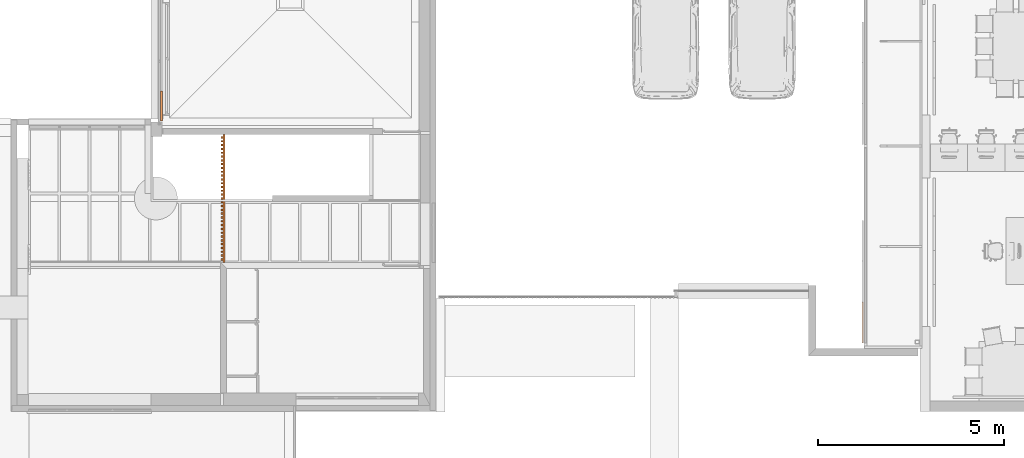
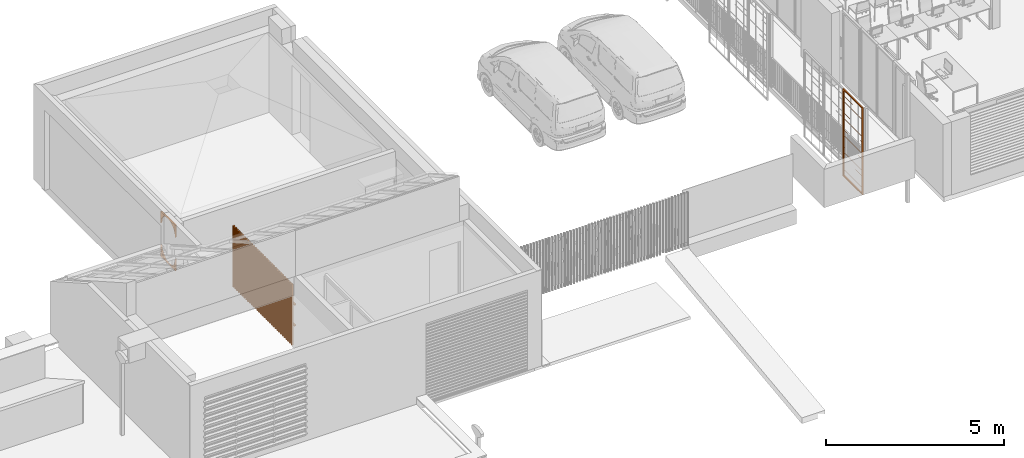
# One storey, part 36 of 51: 3 proxies.
"""IFC2X3 building model written with IfcOpenShell, lengths in metres."""

from ifc_helpers import new_model, entity, si_unit, converted_unit, derived_unit, direction, frame, frame_2d, origin, origin_2d_with_axis, place, context, subcontext, project, spatial, polyline, circle_curve, parameter, trimmed, segment, composite_curve, rectangle, outline, extrude, source, transform, mapped, material, type_object, type_shapes, element, save


model = new_model("IFC2X3")

# Units and contexts
model_context = context("Model", 3, precision=1e-05, world=origin(), true_north=direction((6.123031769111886e-17, 1.0)))
body_context = subcontext(model_context, "Body", "Model", "MODEL_VIEW")
ifc_project = project(units=[si_unit("LENGTHUNIT", "METRE"), si_unit("AREAUNIT", "SQUARE_METRE"), si_unit("VOLUMEUNIT", "CUBIC_METRE"), converted_unit("PLANEANGLEUNIT", "DEGREE", entity("IfcRatioMeasure", 0.017453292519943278), si_unit("PLANEANGLEUNIT", "RADIAN"), dimensions=[0, 0, 0, 0, 0, 0, 0]), si_unit("MASSUNIT", "GRAM", prefix="KILO"), derived_unit("MASSDENSITYUNIT", [(si_unit("MASSUNIT", "GRAM", prefix="KILO"), 1), (si_unit("LENGTHUNIT", "METRE"), -3)]), derived_unit("MOMENTOFINERTIAUNIT", [(si_unit("LENGTHUNIT", "METRE"), 4)]), si_unit("TIMEUNIT", "SECOND"), si_unit("FREQUENCYUNIT", "HERTZ"), si_unit("THERMODYNAMICTEMPERATUREUNIT", "DEGREE_CELSIUS"), derived_unit("THERMALTRANSMITTANCEUNIT", [(si_unit("MASSUNIT", "GRAM", prefix="KILO"), 1), (si_unit("THERMODYNAMICTEMPERATUREUNIT", "KELVIN"), -1), (si_unit("TIMEUNIT", "SECOND"), -3)]), derived_unit("THERMALCONDUCTANCEUNIT", [(si_unit("MASSUNIT", "GRAM", prefix="KILO"), 1), (si_unit("LENGTHUNIT", "METRE"), 1), (si_unit("THERMODYNAMICTEMPERATUREUNIT", "KELVIN"), -1), (si_unit("TIMEUNIT", "SECOND"), -3)]), derived_unit("VOLUMETRICFLOWRATEUNIT", [(si_unit("LENGTHUNIT", "METRE"), 3), (si_unit("TIMEUNIT", "SECOND"), -1)]), derived_unit("MASSFLOWRATEUNIT", [(si_unit("MASSUNIT", "GRAM", prefix="KILO"), 1), (si_unit("TIMEUNIT", "SECOND"), -1)]), derived_unit("ROTATIONALFREQUENCYUNIT", [(si_unit("TIMEUNIT", "SECOND"), -1)]), si_unit("ELECTRICCURRENTUNIT", "AMPERE"), si_unit("ELECTRICVOLTAGEUNIT", "VOLT"), si_unit("POWERUNIT", "WATT"), si_unit("FORCEUNIT", "NEWTON", prefix="KILO"), si_unit("ILLUMINANCEUNIT", "LUX"), si_unit("LUMINOUSFLUXUNIT", "LUMEN"), si_unit("LUMINOUSINTENSITYUNIT", "CANDELA"), derived_unit("USERDEFINED", [(si_unit("MASSUNIT", "GRAM", prefix="KILO"), -1), (si_unit("LENGTHUNIT", "METRE"), -2), (si_unit("TIMEUNIT", "SECOND"), 3), (si_unit("LUMINOUSFLUXUNIT", "LUMEN"), 1)]), derived_unit("USERDEFINED", [(si_unit("MASSUNIT", "GRAM", prefix="KILO"), 1), (si_unit("LENGTHUNIT", "METRE"), 3), (si_unit("TIMEUNIT", "SECOND"), -3), (si_unit("ELECTRICCURRENTUNIT", "AMPERE"), -2)]), derived_unit("USERDEFINED", [(si_unit("LENGTHUNIT", "METRE"), 2), (si_unit("TIMEUNIT", "SECOND"), -2)]), derived_unit("SOUNDPOWERUNIT", [(si_unit("MASSUNIT", "GRAM", prefix="KILO"), 1), (si_unit("LENGTHUNIT", "METRE"), 2), (si_unit("TIMEUNIT", "SECOND"), -3)]), derived_unit("SOUNDPRESSUREUNIT", [(si_unit("MASSUNIT", "GRAM", prefix="KILO"), 1), (si_unit("LENGTHUNIT", "METRE"), -1), (si_unit("TIMEUNIT", "SECOND"), -2)]), derived_unit("LINEARVELOCITYUNIT", [(si_unit("LENGTHUNIT", "METRE"), 1), (si_unit("TIMEUNIT", "SECOND"), -1)]), si_unit("PRESSUREUNIT", "PASCAL"), derived_unit("USERDEFINED", [(si_unit("LENGTHUNIT", "METRE"), -2), (si_unit("MASSUNIT", "GRAM", prefix="KILO"), 1), (si_unit("TIMEUNIT", "SECOND"), -2)]), derived_unit("LINEARFORCEUNIT", [(si_unit("MASSUNIT", "GRAM", prefix="KILO"), 1), (si_unit("LENGTHUNIT", "METRE"), 1), (si_unit("TIMEUNIT", "SECOND"), -2), (si_unit("LENGTHUNIT", "METRE"), -1)]), derived_unit("PLANARFORCEUNIT", [(si_unit("MASSUNIT", "GRAM", prefix="KILO"), 1), (si_unit("LENGTHUNIT", "METRE"), 1), (si_unit("TIMEUNIT", "SECOND"), -2), (si_unit("LENGTHUNIT", "METRE"), -2)]), derived_unit("SPECIFICHEATCAPACITYUNIT", [(si_unit("LENGTHUNIT", "METRE"), 2), (si_unit("TIMEUNIT", "SECOND"), -2), (si_unit("THERMODYNAMICTEMPERATUREUNIT", "KELVIN"), -1)]), derived_unit("VAPORPERMEABILITYUNIT", [(si_unit("TIMEUNIT", "SECOND"), 1), (si_unit("LENGTHUNIT", "METRE"), -1)]), derived_unit("DYNAMICVISCOSITYUNIT", [(si_unit("MASSUNIT", "GRAM", prefix="KILO"), 1), (si_unit("LENGTHUNIT", "METRE"), -1), (si_unit("TIMEUNIT", "SECOND"), -1)]), derived_unit("THERMALEXPANSIONCOEFFICIENTUNIT", [(si_unit("THERMODYNAMICTEMPERATUREUNIT", "KELVIN"), -1)])], contexts=[model_context])

# Site, building, storey
site_placement = place(None, origin())
site = spatial("IfcSite", under=ifc_project, at=site_placement, Name="Default", CompositionType="ELEMENT")
building_placement = place(site_placement, origin())
building = spatial("IfcBuilding", under=site, at=building_placement, CompositionType="ELEMENT")
storey_placement = place(building_placement, frame((0.0, 0.0, 3.06)))
storey = spatial("IfcBuildingStorey", under=building, at=storey_placement, Name="ÉTAGE", CompositionType="ELEMENT", Elevation=3.06)

# Proxies
ifc_material_1 = material(Name="Bois - Chêne clair")
building_element_proxy_type_1 = type_object("IfcBuildingElementProxyType", Name="Poutre-001 248392:Poutre-001 248392", PredefinedType="NOTDEFINED", material=ifc_material_1)
shared_shape_1 = source(origin(), body_context, "Body", "SweptSolid", [
    extrude(outline(composite_curve([segment(polyline([(-0.1366666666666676, -0.13666666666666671), (0.27333333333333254, -0.13666666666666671)]), True, "CONTINUOUS"), segment(trimmed(circle_curve(frame_2d((0.27333333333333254, 0.27333333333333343), x_axis=(0.0, -1.0)), 0.4099999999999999), [parameter(269.9999999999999)], [parameter(0.0)], True, "PARAMETER"), False, "CONTINUOUS"), segment(polyline([(-0.1366666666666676, 0.27333333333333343), (-0.1366666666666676, -0.13666666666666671)]), True, "CONTINUOUS")], self_intersect=False)), frame((120.94075226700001, 15.543876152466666, 5.583333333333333), z_axis=(1.0, 0.0, 0.0), x_axis=(0.0, 0.0, -1.0)), (0.0, 0.0, 1.0), 0.050000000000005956),
    extrude(outline(composite_curve([segment(polyline([(-0.27333333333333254, -0.13666666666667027), (0.1366666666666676, -0.13666666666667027)]), True, "CONTINUOUS"), segment(polyline([(0.1366666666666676, -0.13666666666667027), (0.1366666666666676, 0.2733333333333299)]), True, "CONTINUOUS"), segment(trimmed(circle_curve(frame_2d((-0.27333333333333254, 0.2733333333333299), x_axis=(1.0, 0.0)), 0.4099999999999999), [parameter(269.9999999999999)], [parameter(0.0)], True, "PARAMETER"), False, "CONTINUOUS")], self_intersect=False)), frame((120.94075226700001, 16.09054281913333, 5.583333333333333), z_axis=(1.0, 0.0, 0.0), x_axis=(0.0, 0.0, 1.0)), (0.0, 0.0, 1.0), 0.050000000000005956),
    extrude(outline(composite_curve([segment(polyline([(-0.27333333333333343, -0.13666666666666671), (0.1366666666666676, -0.13666666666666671)]), True, "CONTINUOUS"), segment(polyline([(0.1366666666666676, -0.13666666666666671), (0.1366666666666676, 0.27333333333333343)]), True, "CONTINUOUS"), segment(trimmed(circle_curve(frame_2d((-0.27333333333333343, 0.27333333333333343), x_axis=(1.0, 0.0)), 0.4099999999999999), [parameter(269.9999999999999)], [parameter(0.0)], True, "PARAMETER"), False, "CONTINUOUS")], self_intersect=False)), frame((120.94075226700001, 15.543876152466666, 4.296666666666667), z_axis=(1.0, 0.0, 0.0), x_axis=(0.0, 0.0, -1.0)), (0.0, 0.0, 1.0), 0.050000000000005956),
    extrude(outline(composite_curve([segment(polyline([(-0.1366666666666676, -0.13666666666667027), (0.27333333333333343, -0.13666666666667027)]), True, "CONTINUOUS"), segment(trimmed(circle_curve(frame_2d((0.27333333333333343, 0.2733333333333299), x_axis=(0.0, -1.0)), 0.4099999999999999), [parameter(269.9999999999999)], [parameter(0.0)], True, "PARAMETER"), False, "CONTINUOUS"), segment(polyline([(-0.13666666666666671, 0.2733333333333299), (-0.1366666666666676, -0.13666666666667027)]), True, "CONTINUOUS")], self_intersect=False)), frame((120.94075226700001, 16.09054281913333, 4.296666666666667), z_axis=(1.0, 0.0, 0.0), x_axis=(0.0, 0.0, 1.0)), (0.0, 0.0, 1.0), 0.050000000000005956),
])
type_shapes(building_element_proxy_type_1, [shared_shape_1])
proxy_1_placement = place(storey_placement, frame((0.0, 0.0, -3.06)))
element("IfcBuildingElementProxy", 1, at=proxy_1_placement, inside=storey, type_object=building_element_proxy_type_1, material=ifc_material_1, Name="Poutre-001 248392:Poutre-001 248392", ObjectType="Poutre-001 248392:Poutre-001 248392", context=body_context, shape_type="MappedRepresentation", body=[
    mapped(shared_shape_1, transform((0.0, 0.0, 0.0), scale=1.0)),
])
ifc_material_2 = material(Name="Peinture - Gris foncé")
building_element_proxy_type_2 = type_object("IfcBuildingElementProxyType", Name="Symb-0003", PredefinedType="NOTDEFINED", material=ifc_material_2)
shared_shape_2 = source(origin(), body_context, "Body", "SweptSolid", [
    extrude(outline(polyline([(-0.0011785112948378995, -0.002357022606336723), (0.0, -0.0023570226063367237), (0.001767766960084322, -0.0017677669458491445), (0.002357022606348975, 0.0), (0.0023570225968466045, 0.0011785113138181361), (0.0011785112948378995, 0.002357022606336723), (0.0, 0.002357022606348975), (-0.001767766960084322, 0.0017677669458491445), (-0.0023570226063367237, 0.0), (-0.0023570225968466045, -0.0011785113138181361), (-0.0011785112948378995, -0.002357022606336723)])), frame((139.86075228, 9.477209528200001, 6.7275), z_axis=(0.0, 1.0, 0.0), x_axis=(-0.7071067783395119, 0.0, -0.7071067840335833)), (0.0, 0.0, 1.0), 1.0199999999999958),
    extrude(outline(polyline([(-0.0011785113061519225, -0.0023570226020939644), (0.0, -0.002357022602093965), (0.0017677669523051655, -0.001767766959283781), (0.0023570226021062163, 0.0), (0.002357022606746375, 0.0011785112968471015), (0.0011785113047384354, 0.0023570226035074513), (0.0, 0.0023570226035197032), (-0.0017677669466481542, 0.0017677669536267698), (-0.002357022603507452, 0.0), (-0.0023570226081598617, -0.0011785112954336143), (-0.0011785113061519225, -0.0023570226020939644)])), frame((139.86075228, 9.477209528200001, 6.532833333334), z_axis=(0.0, 1.0, 0.0), x_axis=(-0.7071067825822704, 0.0, -0.7071067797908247)), (0.0, 0.0, 1.0), 1.019999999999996),
    extrude(outline(polyline([(-0.001178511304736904, -0.002357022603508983), (0.0, -0.002357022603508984), (0.0017677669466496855, -0.001767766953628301), (0.002357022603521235, 0.0), (0.0023570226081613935, 0.0011785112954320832), (0.0011785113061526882, 0.002357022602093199), (0.0, 0.002357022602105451), (-0.0017677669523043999, 0.0017677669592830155), (-0.0023570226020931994, 0.0), (-0.0023570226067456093, -0.0011785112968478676), (-0.001178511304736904, -0.002357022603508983)])), frame((139.86075228, 9.477209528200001, 6.338166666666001), z_axis=(0.0, 1.0, 0.0), x_axis=(-0.7071067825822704, 0.0, -0.7071067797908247)), (0.0, 0.0, 1.0), 1.0199999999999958),
    extrude(outline(polyline([(-0.0011785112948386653, -0.0023570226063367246), (0.0, -0.0023570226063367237), (0.0017677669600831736, -0.001767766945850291), (0.002357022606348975, 0.0), (0.0023570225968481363, 0.001178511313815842), (0.0011785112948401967, 0.0023570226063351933), (0.0, 0.002357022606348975), (-0.001767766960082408, 0.0017677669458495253), (-0.0023570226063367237, 0.0), (-0.002357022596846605, -0.0011785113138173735), (-0.0011785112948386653, -0.0023570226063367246)])), frame((139.86075228, 9.477209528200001, 6.1435), z_axis=(0.0, 1.0, 0.0), x_axis=(-0.7071067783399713, 0.0, -0.7071067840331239)), (0.0, 0.0, 1.0), 1.0199999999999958),
    extrude(outline(polyline([(-0.0011785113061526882, -0.002357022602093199), (0.0, -0.0023570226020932), (0.0017677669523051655, -0.001767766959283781), (0.002357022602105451, 0.0), (0.0023570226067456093, 0.0011785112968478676), (0.0011785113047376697, 0.002357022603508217), (0.0, 0.0023570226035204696), (-0.0017677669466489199, 0.0017677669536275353), (-0.002357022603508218, 0.0), (-0.0023570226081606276, -0.0011785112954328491), (-0.0011785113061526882, -0.002357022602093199)])), frame((139.86075228, 9.477209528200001, 5.948833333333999), z_axis=(0.0, 1.0, 0.0), x_axis=(-0.7071067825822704, 0.0, -0.7071067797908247)), (0.0, 0.0, 1.0), 1.0199999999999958),
    extrude(outline(polyline([(-0.0011785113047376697, -0.002357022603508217), (0.0, -0.002357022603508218), (0.0017677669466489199, -0.0017677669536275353), (0.0023570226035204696, 0.0), (0.0023570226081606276, 0.0011785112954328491), (0.0011785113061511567, 0.0023570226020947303), (0.0, 0.0023570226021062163), (-0.0017677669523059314, 0.0017677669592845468), (-0.0023570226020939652, 0.0), (-0.0023570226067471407, -0.0011785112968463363), (-0.0011785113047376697, -0.002357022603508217)])), frame((139.86075228, 9.477209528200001, 5.754166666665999), z_axis=(0.0, 1.0, 0.0), x_axis=(-0.7071067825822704, 0.0, -0.7071067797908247)), (0.0, 0.0, 1.0), 1.0199999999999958),
    extrude(outline(polyline([(-0.001178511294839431, -0.0023570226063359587), (0.0, -0.002357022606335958), (0.001767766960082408, -0.0017677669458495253), (0.0023570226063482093, 0.0), (0.0023570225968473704, 0.0011785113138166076), (0.001178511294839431, 0.0023570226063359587), (0.0, 0.0023570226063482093), (-0.001767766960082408, 0.0017677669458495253), (-0.002357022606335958, 0.0), (-0.0023570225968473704, -0.0011785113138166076), (-0.001178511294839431, -0.0023570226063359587)])), frame((139.86075228, 9.477209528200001, 5.5595), z_axis=(0.0, 1.0, 0.0), x_axis=(-0.7071067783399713, 0.0, -0.7071067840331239)), (0.0, 0.0, 1.0), 1.0199999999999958),
    extrude(outline(polyline([(-0.0011785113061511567, -0.0023570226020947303), (0.0, -0.002357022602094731), (0.001767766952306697, -0.0017677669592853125), (0.002357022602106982, 0.0), (0.0023570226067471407, 0.0011785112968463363), (0.001178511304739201, 0.0023570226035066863), (0.0, 0.0023570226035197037), (-0.0017677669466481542, 0.0017677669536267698), (-0.002357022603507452, 0.0), (-0.0023570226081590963, -0.0011785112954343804), (-0.0011785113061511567, -0.0023570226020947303)])), frame((139.86075228, 9.477209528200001, 5.364833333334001), z_axis=(0.0, 1.0, 0.0), x_axis=(-0.7071067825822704, 0.0, -0.7071067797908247)), (0.0, 0.0, 1.0), 1.0199999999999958),
    extrude(outline(polyline([(-0.001178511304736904, -0.002357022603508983), (0.0, -0.002357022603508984), (0.0017677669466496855, -0.001767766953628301), (0.002357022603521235, 0.0), (0.0023570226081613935, 0.0011785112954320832), (0.0011785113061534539, 0.002357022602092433), (0.0, 0.002357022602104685), (-0.0017677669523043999, 0.0017677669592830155), (-0.002357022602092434, 0.0), (-0.0023570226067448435, -0.0011785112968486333), (-0.001178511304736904, -0.002357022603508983)])), frame((139.86075228, 9.477209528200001, 5.1701666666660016), z_axis=(0.0, 1.0, 0.0), x_axis=(-0.7071067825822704, 0.0, -0.7071067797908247)), (0.0, 0.0, 1.0), 1.0199999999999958),
    extrude(outline(polyline([(-0.001178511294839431, -0.0023570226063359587), (0.0, -0.002357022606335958), (0.001767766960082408, -0.0017677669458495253), (0.0023570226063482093, 0.0), (0.0023570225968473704, 0.0011785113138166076), (0.0011785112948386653, 0.0023570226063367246), (0.0, 0.0023570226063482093), (-0.0017677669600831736, 0.001767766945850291), (-0.002357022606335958, 0.0), (-0.0023570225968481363, -0.001178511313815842), (-0.001178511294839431, -0.0023570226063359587)])), frame((139.86075228, 9.477209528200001, 4.975499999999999), z_axis=(0.0, 1.0, 0.0), x_axis=(-0.7071067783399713, 0.0, -0.7071067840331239)), (0.0, 0.0, 1.0), 1.0199999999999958),
    extrude(outline(polyline([(-0.0011785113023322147, -0.0023570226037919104), (0.0, -0.002357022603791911), (0.0017677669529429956, -0.0017677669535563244), (0.002357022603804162, 0.0), (0.002357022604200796, 0.0011785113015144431), (0.0011785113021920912, 0.002357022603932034), (0.0, 0.0023570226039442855), (-0.001767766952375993, 0.0017677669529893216), (-0.0023570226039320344, 0.0), (-0.0023570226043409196, -0.0011785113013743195), (-0.0011785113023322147, -0.0023570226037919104)])), frame((139.86075228, 9.477209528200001, 4.780833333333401), z_axis=(0.0, 1.0, 0.0), x_axis=(-0.7071067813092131, 0.0, -0.7071067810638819)), (0.0, 0.0, 1.0), 1.0199999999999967),
    extrude(outline(polyline([(-0.0011785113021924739, -0.0023570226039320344), (0.0, -0.0023570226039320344), (0.0017677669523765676, -0.0017677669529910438), (0.002357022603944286, 0.0), (0.0023570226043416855, 0.0011785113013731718), (0.0011785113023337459, 0.002357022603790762), (0.0, 0.0023570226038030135), (-0.0017677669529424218, 0.0017677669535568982), (-0.0023570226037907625, 0.0), (-0.002357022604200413, -0.001178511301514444), (-0.0011785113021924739, -0.0023570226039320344)])), frame((139.86075228, 9.477209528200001, 4.5861666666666), z_axis=(0.0, 1.0, 0.0), x_axis=(-0.7071067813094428, 0.0, -0.7071067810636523)), (0.0, 0.0, 1.0), 1.0199999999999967),
    extrude(outline(polyline([(-0.0011785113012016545, -0.0023570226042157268), (0.0, -0.002357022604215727), (0.001767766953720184, -0.0017677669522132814), (0.0023570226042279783, 0.0), (0.0023570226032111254, 0.0011785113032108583), (0.001178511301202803, 0.0023570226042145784), (0.0, 0.002357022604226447), (-0.0017677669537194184, 0.0017677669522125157), (-0.002357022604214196, 0.0), (-0.0023570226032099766, -0.0011785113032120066), (-0.0011785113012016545, -0.0023570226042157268)])), frame((139.86075228, 9.477209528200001, 4.391500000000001), z_axis=(0.0, 1.0, 0.0), x_axis=(-0.707106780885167, 0.0, -0.707106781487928)), (0.0, 0.0, 1.0), 1.0199999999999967),
    extrude(outline(polyline([(-0.0011785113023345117, -0.0023570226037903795), (0.0, -0.0023570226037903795), (0.0017677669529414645, -0.0017677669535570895), (0.0023570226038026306, 0.0), (0.002357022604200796, 0.0011785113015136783), (0.001178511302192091, 0.0023570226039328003), (0.0, 0.002357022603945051), (-0.00176776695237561, 0.001767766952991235), (-0.0023570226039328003, 0.0), (-0.002357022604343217, -0.0011785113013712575), (-0.0011785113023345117, -0.0023570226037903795)])), frame((139.86075228, 9.477209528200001, 4.196833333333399), z_axis=(0.0, 1.0, 0.0), x_axis=(-0.7071067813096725, 0.0, -0.7071067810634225)), (0.0, 0.0, 1.0), 1.0199999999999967),
    extrude(outline(polyline([(-0.001178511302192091, -0.002357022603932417), (0.0, -0.0023570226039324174), (0.0017677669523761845, -0.0017677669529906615), (0.0023570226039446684, 0.0), (0.0023570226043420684, 0.0011785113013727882), (0.0011785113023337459, 0.002357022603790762), (0.0, 0.0023570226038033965), (-0.001767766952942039, 0.001767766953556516), (-0.0023570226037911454, 0.0), (-0.002357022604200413, -0.0011785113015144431), (-0.001178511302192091, -0.002357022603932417)])), frame((139.86075228, 9.477209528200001, 4.0021666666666), z_axis=(0.0, 1.0, 0.0), x_axis=(-0.7071067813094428, 0.0, -0.7071067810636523)), (0.0, 0.0, 1.0), 1.0199999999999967),
    extrude(rectangle(XDim=1.1, YDim=0.039999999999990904, at=frame_2d((5.551115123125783e-16, 0.0), x_axis=(1.0, 0.0))), frame((139.86075227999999, 9.9872095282, 6.73), z_axis=(0.0, 0.0, 1.0), x_axis=(0.0, 1.0, 0.0)), (0.0, 0.0, 1.0), 0.03999999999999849),
    extrude(rectangle(XDim=1.1, YDim=0.039999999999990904, at=frame_2d((5.551115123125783e-16, 0.0), x_axis=(1.0, 0.0))), frame((139.86075227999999, 9.9872095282, 3.7699999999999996), z_axis=(0.0, 0.0, 1.0), x_axis=(0.0, 1.0, 0.0)), (0.0, 0.0, 1.0), 0.04000000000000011),
    extrude(rectangle(XDim=0.03999999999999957, YDim=0.039999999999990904, at=origin_2d_with_axis()), frame((139.86075227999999, 9.4572095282, 3.8099999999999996), z_axis=(0.0, 0.0, 1.0), x_axis=(0.0, 1.0, 0.0)), (0.0, 0.0, 1.0), 2.9200000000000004),
    extrude(rectangle(XDim=0.03999999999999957, YDim=0.039999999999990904, at=origin_2d_with_axis()), frame((139.86075227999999, 10.5172095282, 3.8099999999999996), z_axis=(0.0, 0.0, 1.0), x_axis=(0.0, 1.0, 0.0)), (0.0, 0.0, 1.0), 2.9200000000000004),
])
type_shapes(building_element_proxy_type_2, [shared_shape_2])
proxy_2_placement = place(storey_placement, frame((0.0, 0.0, -3.06)))
element("IfcBuildingElementProxy", 2, at=proxy_2_placement, inside=storey, type_object=building_element_proxy_type_2, material=ifc_material_2, Name="Symb-0003 288219:Symb-0003 288219", ObjectType="Symb-0003 288219:Symb-0003 288219", context=body_context, shape_type="MappedRepresentation", body=[
    mapped(shared_shape_2, transform((0.0, 0.0, 0.0), scale=1.0)),
])
building_element_proxy_type_3 = type_object("IfcBuildingElementProxyType", Name="Symb-0003", PredefinedType="NOTDEFINED", material=ifc_material_1)
shared_shape_3 = source(origin(), body_context, "Body", "SweptSolid", [
    extrude(rectangle(XDim=0.050000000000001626, YDim=0.04999999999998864, at=origin_2d_with_axis()), frame((122.59575225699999, 11.684856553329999, 3.3), z_axis=(0.0, 0.0, 1.0), x_axis=(0.0, 1.0, 0.0)), (0.0, 0.0, 1.0), 2.1000000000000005),
    extrude(rectangle(XDim=0.0499999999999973, YDim=0.04999999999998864, at=origin_2d_with_axis()), frame((122.59575225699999, 11.787503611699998, 3.3), z_axis=(0.0, 0.0, 1.0), x_axis=(0.0, 1.0, 0.0)), (0.0, 0.0, 1.0), 2.1000000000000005),
    extrude(rectangle(XDim=0.04999999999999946, YDim=0.04999999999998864, at=frame_2d((1.0824674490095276e-15, 0.0), x_axis=(1.0, 0.0))), frame((122.59575225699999, 11.890150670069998, 3.3), z_axis=(0.0, 0.0, 1.0), x_axis=(0.0, 1.0, 0.0)), (0.0, 0.0, 1.0), 2.1000000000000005),
    extrude(rectangle(XDim=0.050000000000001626, YDim=0.04999999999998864, at=origin_2d_with_axis()), frame((122.59575225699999, 11.992797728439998, 3.3), z_axis=(0.0, 0.0, 1.0), x_axis=(0.0, 1.0, 0.0)), (0.0, 0.0, 1.0), 2.1000000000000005),
    extrude(rectangle(XDim=0.04999999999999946, YDim=0.04999999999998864, at=frame_2d((-1.0824674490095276e-15, 0.0), x_axis=(1.0, 0.0))), frame((122.59575225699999, 12.095444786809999, 3.3), z_axis=(0.0, 0.0, 1.0), x_axis=(0.0, 1.0, 0.0)), (0.0, 0.0, 1.0), 2.1000000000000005),
    extrude(rectangle(XDim=0.050000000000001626, YDim=0.04999999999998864, at=origin_2d_with_axis()), frame((122.59575225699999, 12.19809184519, 3.3), z_axis=(0.0, 0.0, 1.0), x_axis=(0.0, 1.0, 0.0)), (0.0, 0.0, 1.0), 2.1000000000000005),
    extrude(rectangle(XDim=0.04999999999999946, YDim=0.04999999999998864, at=frame_2d((1.0824674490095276e-15, 0.0), x_axis=(1.0, 0.0))), frame((122.59575225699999, 12.300738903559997, 3.3), z_axis=(0.0, 0.0, 1.0), x_axis=(0.0, 1.0, 0.0)), (0.0, 0.0, 1.0), 2.1000000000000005),
    extrude(rectangle(XDim=0.04999999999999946, YDim=0.04999999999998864, at=frame_2d((1.0824674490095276e-15, 0.0), x_axis=(1.0, 0.0))), frame((122.59575225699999, 12.403385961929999, 3.3), z_axis=(0.0, 0.0, 1.0), x_axis=(0.0, 1.0, 0.0)), (0.0, 0.0, 1.0), 2.1000000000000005),
    extrude(rectangle(XDim=0.04999999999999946, YDim=0.04999999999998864, at=frame_2d((-1.0824674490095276e-15, 0.0), x_axis=(1.0, 0.0))), frame((122.59575225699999, 12.506033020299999, 3.3), z_axis=(0.0, 0.0, 1.0), x_axis=(0.0, 1.0, 0.0)), (0.0, 0.0, 1.0), 2.1000000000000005),
    extrude(rectangle(XDim=0.04999999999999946, YDim=0.04999999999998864, at=frame_2d((-1.0824674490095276e-15, 0.0), x_axis=(1.0, 0.0))), frame((122.59575225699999, 12.60868007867, 3.3), z_axis=(0.0, 0.0, 1.0), x_axis=(0.0, 1.0, 0.0)), (0.0, 0.0, 1.0), 2.1000000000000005),
    extrude(rectangle(XDim=0.04999999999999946, YDim=0.04999999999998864, at=frame_2d((1.0824674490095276e-15, 0.0), x_axis=(1.0, 0.0))), frame((122.59575225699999, 12.711327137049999, 3.3), z_axis=(0.0, 0.0, 1.0), x_axis=(0.0, 1.0, 0.0)), (0.0, 0.0, 1.0), 2.1000000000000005),
    extrude(rectangle(XDim=0.0499999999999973, YDim=0.04999999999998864, at=origin_2d_with_axis()), frame((122.59575225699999, 12.813974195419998, 3.3), z_axis=(0.0, 0.0, 1.0), x_axis=(0.0, 1.0, 0.0)), (0.0, 0.0, 1.0), 2.1000000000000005),
    extrude(rectangle(XDim=0.050000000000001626, YDim=0.04999999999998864, at=origin_2d_with_axis()), frame((122.59575225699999, 12.91662125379, 3.3), z_axis=(0.0, 0.0, 1.0), x_axis=(0.0, 1.0, 0.0)), (0.0, 0.0, 1.0), 2.1000000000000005),
    extrude(rectangle(XDim=0.050000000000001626, YDim=0.04999999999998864, at=origin_2d_with_axis()), frame((122.59575225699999, 13.019268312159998, 3.3), z_axis=(0.0, 0.0, 1.0), x_axis=(0.0, 1.0, 0.0)), (0.0, 0.0, 1.0), 2.1000000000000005),
    extrude(rectangle(XDim=0.04999999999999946, YDim=0.04999999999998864, at=frame_2d((1.0824674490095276e-15, 0.0), x_axis=(1.0, 0.0))), frame((122.59575225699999, 13.121915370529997, 3.3), z_axis=(0.0, 0.0, 1.0), x_axis=(0.0, 1.0, 0.0)), (0.0, 0.0, 1.0), 2.1000000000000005),
    extrude(rectangle(XDim=0.050000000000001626, YDim=0.04999999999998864, at=origin_2d_with_axis()), frame((122.59575225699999, 13.22456242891, 3.3), z_axis=(0.0, 0.0, 1.0), x_axis=(0.0, 1.0, 0.0)), (0.0, 0.0, 1.0), 2.1000000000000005),
    extrude(rectangle(XDim=0.04999999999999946, YDim=0.04999999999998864, at=frame_2d((1.0824674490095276e-15, 0.0), x_axis=(1.0, 0.0))), frame((122.59575225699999, 13.327209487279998, 3.3), z_axis=(0.0, 0.0, 1.0), x_axis=(0.0, 1.0, 0.0)), (0.0, 0.0, 1.0), 2.1000000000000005),
    extrude(rectangle(XDim=0.050000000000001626, YDim=0.04999999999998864, at=origin_2d_with_axis()), frame((122.59575225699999, 13.429856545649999, 3.3), z_axis=(0.0, 0.0, 1.0), x_axis=(0.0, 1.0, 0.0)), (0.0, 0.0, 1.0), 2.1000000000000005),
    extrude(rectangle(XDim=0.04999999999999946, YDim=0.04999999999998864, at=frame_2d((1.0824674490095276e-15, 0.0), x_axis=(1.0, 0.0))), frame((122.59575225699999, 13.532503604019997, 3.3), z_axis=(0.0, 0.0, 1.0), x_axis=(0.0, 1.0, 0.0)), (0.0, 0.0, 1.0), 2.1000000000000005),
    extrude(rectangle(XDim=0.04999999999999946, YDim=0.04999999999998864, at=frame_2d((1.0824674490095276e-15, 0.0), x_axis=(1.0, 0.0))), frame((122.59575225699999, 13.635150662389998, 3.3), z_axis=(0.0, 0.0, 1.0), x_axis=(0.0, 1.0, 0.0)), (0.0, 0.0, 1.0), 2.1000000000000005),
    extrude(rectangle(XDim=0.050000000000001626, YDim=0.04999999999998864, at=origin_2d_with_axis()), frame((122.59575225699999, 13.737797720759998, 3.3), z_axis=(0.0, 0.0, 1.0), x_axis=(0.0, 1.0, 0.0)), (0.0, 0.0, 1.0), 2.1000000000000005),
    extrude(rectangle(XDim=0.0499999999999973, YDim=0.04999999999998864, at=origin_2d_with_axis()), frame((122.59575225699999, 13.840444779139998, 3.3), z_axis=(0.0, 0.0, 1.0), x_axis=(0.0, 1.0, 0.0)), (0.0, 0.0, 1.0), 2.1000000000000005),
    extrude(rectangle(XDim=0.04999999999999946, YDim=0.04999999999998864, at=frame_2d((1.0824674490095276e-15, 0.0), x_axis=(1.0, 0.0))), frame((122.59575225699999, 13.943091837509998, 3.3), z_axis=(0.0, 0.0, 1.0), x_axis=(0.0, 1.0, 0.0)), (0.0, 0.0, 1.0), 2.1000000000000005),
    extrude(rectangle(XDim=0.050000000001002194, YDim=0.04999999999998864, at=origin_2d_with_axis()), frame((122.59575225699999, 14.045738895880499, 3.3), z_axis=(0.0, 0.0, 1.0), x_axis=(0.0, 1.0, 0.0)), (0.0, 0.0, 1.0), 2.1000000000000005),
    extrude(rectangle(XDim=0.050000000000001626, YDim=0.04999999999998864, at=origin_2d_with_axis()), frame((122.59575225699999, 14.148385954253, 3.3), z_axis=(0.0, 0.0, 1.0), x_axis=(0.0, 1.0, 0.0)), (0.0, 0.0, 1.0), 2.1000000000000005),
    extrude(rectangle(XDim=0.050000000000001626, YDim=0.04999999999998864, at=origin_2d_with_axis()), frame((122.59575225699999, 14.251033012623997, 3.3), z_axis=(0.0, 0.0, 1.0), x_axis=(0.0, 1.0, 0.0)), (0.0, 0.0, 1.0), 2.1000000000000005),
    extrude(rectangle(XDim=0.050000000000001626, YDim=0.04999999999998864, at=origin_2d_with_axis()), frame((122.59575225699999, 14.353680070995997, 3.3), z_axis=(0.0, 0.0, 1.0), x_axis=(0.0, 1.0, 0.0)), (0.0, 0.0, 1.0), 2.1000000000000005),
    extrude(rectangle(XDim=0.04999999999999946, YDim=0.04999999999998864, at=frame_2d((1.0824674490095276e-15, 0.0), x_axis=(1.0, 0.0))), frame((122.59575225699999, 14.456327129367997, 3.3), z_axis=(0.0, 0.0, 1.0), x_axis=(0.0, 1.0, 0.0)), (0.0, 0.0, 1.0), 2.1000000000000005),
    extrude(rectangle(XDim=0.04999999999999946, YDim=0.04999999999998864, at=frame_2d((-1.0824674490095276e-15, 0.0), x_axis=(1.0, 0.0))), frame((122.59575225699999, 14.558974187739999, 3.3), z_axis=(0.0, 0.0, 1.0), x_axis=(0.0, 1.0, 0.0)), (0.0, 0.0, 1.0), 2.1000000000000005),
    extrude(rectangle(XDim=0.04999999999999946, YDim=0.04999999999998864, at=frame_2d((1.0824674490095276e-15, 0.0), x_axis=(1.0, 0.0))), frame((122.59575225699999, 14.661621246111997, 3.3), z_axis=(0.0, 0.0, 1.0), x_axis=(0.0, 1.0, 0.0)), (0.0, 0.0, 1.0), 2.1000000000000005),
    extrude(rectangle(XDim=0.04999999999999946, YDim=0.04999999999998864, at=frame_2d((-1.0824674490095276e-15, 0.0), x_axis=(1.0, 0.0))), frame((122.59575225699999, 14.764268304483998, 3.3), z_axis=(0.0, 0.0, 1.0), x_axis=(0.0, 1.0, 0.0)), (0.0, 0.0, 1.0), 2.1000000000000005),
    extrude(rectangle(XDim=0.04999999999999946, YDim=0.04999999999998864, at=frame_2d((1.0824674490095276e-15, 0.0), x_axis=(1.0, 0.0))), frame((122.59575225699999, 14.866915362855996, 3.3), z_axis=(0.0, 0.0, 1.0), x_axis=(0.0, 1.0, 0.0)), (0.0, 0.0, 1.0), 2.1000000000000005),
    extrude(rectangle(XDim=0.050000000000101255, YDim=0.04999999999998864, at=origin_2d_with_axis()), frame((122.59575225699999, 14.969562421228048, 3.3), z_axis=(0.0, 0.0, 1.0), x_axis=(0.0, 1.0, 0.0)), (0.0, 0.0, 1.0), 2.1000000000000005),
    extrude(rectangle(XDim=3.4399999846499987, YDim=0.05000000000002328, at=frame_2d((1.1102230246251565e-15, 0.0), x_axis=(1.0, 0.0))), frame((122.645752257, 13.327209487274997, 4.68333333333), z_axis=(0.0, 0.0, 1.0), x_axis=(0.0, 1.0, 0.0)), (0.0, 0.0, 1.0), 0.04999999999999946),
    extrude(rectangle(XDim=3.4399999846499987, YDim=0.05000000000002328, at=frame_2d((1.1102230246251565e-15, 0.0), x_axis=(1.0, 0.0))), frame((122.645752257, 13.327209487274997, 3.9666666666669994), z_axis=(0.0, 0.0, 1.0), x_axis=(0.0, 1.0, 0.0)), (0.0, 0.0, 1.0), 0.05),
])
type_shapes(building_element_proxy_type_3, [shared_shape_3])
proxy_3_placement = place(storey_placement, frame((0.0, 0.0, -3.06)))
element("IfcBuildingElementProxy", 3, at=proxy_3_placement, inside=storey, type_object=building_element_proxy_type_3, material=ifc_material_1, Name="Symb-0003 290547:Symb-0003 290547", ObjectType="Symb-0003 290547:Symb-0003 290547", context=body_context, shape_type="MappedRepresentation", body=[
    mapped(shared_shape_3, transform((0.0, 0.0, 0.0), scale=1.0)),
])

save(model, "model.ifc")
